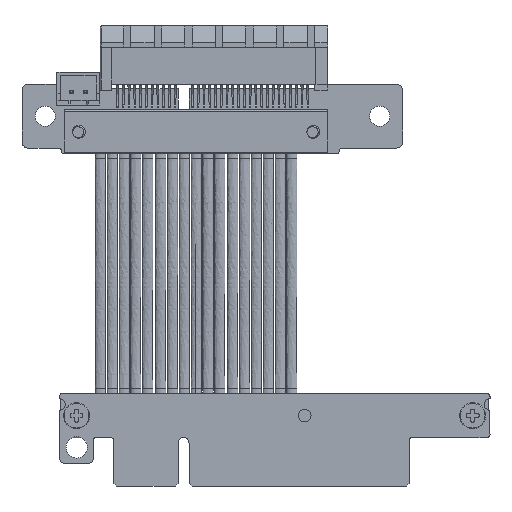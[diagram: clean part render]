
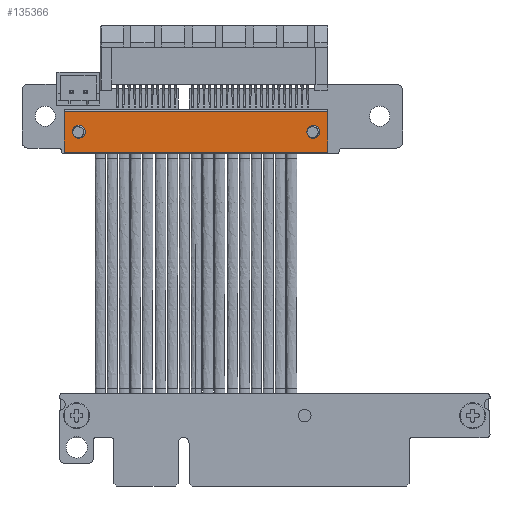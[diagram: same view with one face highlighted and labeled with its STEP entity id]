
A CAD part, top view. The second image highlights one B-rep face of the part: STEP entity #135366.
In plain terms, the highlighted planar face has unit normal (0, 0, 1) as drawn and (1, 0, 0) by its records, which use the part's own axes.
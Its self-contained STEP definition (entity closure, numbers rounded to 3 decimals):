
#135338 = VERTEX_POINT('',#135339);
#135339 = CARTESIAN_POINT('',(0.25,-0.25,0.));
#135346 = EDGE_CURVE('',#135347,#135338,#135349,.T.);
#135347 = VERTEX_POINT('',#135348);
#135348 = CARTESIAN_POINT('',(0.25,-0.25,-45.75));
#135349 = LINE('',#135350,#135351);
#135350 = CARTESIAN_POINT('',(0.25,-0.25,-45.75));
#135351 = VECTOR('',#135352,1.);
#135352 = DIRECTION('',(0.,0.,1.));
#135366 = ADVANCED_FACE('',(#135367,#135387,#135407),#135432,.T.);
#135367 = FACE_BOUND('',#135368,.T.);
#135368 = EDGE_LOOP('',(#135369,#135380));
#135369 = ORIENTED_EDGE('',*,*,#135370,.F.);
#135370 = EDGE_CURVE('',#135371,#135373,#135375,.T.);
#135371 = VERTEX_POINT('',#135372);
#135372 = CARTESIAN_POINT('',(0.25,-3.804,-44.3));
#135373 = VERTEX_POINT('',#135374);
#135374 = CARTESIAN_POINT('',(0.25,-3.804,-42.1));
#135375 = CIRCLE('',#135376,1.1);
#135376 = AXIS2_PLACEMENT_3D('',#135377,#135378,#135379);
#135377 = CARTESIAN_POINT('',(0.25,-3.804,-43.2));
#135378 = DIRECTION('',(1.,0.,0.));
#135379 = DIRECTION('',(0.,1.,0.));
#135380 = ORIENTED_EDGE('',*,*,#135381,.F.);
#135381 = EDGE_CURVE('',#135373,#135371,#135382,.T.);
#135382 = CIRCLE('',#135383,1.1);
#135383 = AXIS2_PLACEMENT_3D('',#135384,#135385,#135386);
#135384 = CARTESIAN_POINT('',(0.25,-3.8,-43.2));
#135385 = DIRECTION('',(1.,0.,0.));
#135386 = DIRECTION('',(0.,1.,0.));
#135387 = FACE_BOUND('',#135388,.T.);
#135388 = EDGE_LOOP('',(#135389,#135400));
#135389 = ORIENTED_EDGE('',*,*,#135390,.F.);
#135390 = EDGE_CURVE('',#135391,#135393,#135395,.T.);
#135391 = VERTEX_POINT('',#135392);
#135392 = CARTESIAN_POINT('',(0.25,-2.704,-2.55));
#135393 = VERTEX_POINT('',#135394);
#135394 = CARTESIAN_POINT('',(0.25,-3.804,-1.45));
#135395 = CIRCLE('',#135396,1.1);
#135396 = AXIS2_PLACEMENT_3D('',#135397,#135398,#135399);
#135397 = CARTESIAN_POINT('',(0.25,-3.804,-2.55));
#135398 = DIRECTION('',(1.,0.,0.));
#135399 = DIRECTION('',(0.,1.,0.));
#135400 = ORIENTED_EDGE('',*,*,#135401,.F.);
#135401 = EDGE_CURVE('',#135393,#135391,#135402,.T.);
#135402 = CIRCLE('',#135403,1.1);
#135403 = AXIS2_PLACEMENT_3D('',#135404,#135405,#135406);
#135404 = CARTESIAN_POINT('',(0.25,-3.804,-2.55));
#135405 = DIRECTION('',(1.,0.,0.));
#135406 = DIRECTION('',(0.,1.,0.));
#135407 = FACE_BOUND('',#135408,.T.);
#135408 = EDGE_LOOP('',(#135409,#135417,#135425,#135431));
#135409 = ORIENTED_EDGE('',*,*,#135410,.F.);
#135410 = EDGE_CURVE('',#135411,#135338,#135413,.T.);
#135411 = VERTEX_POINT('',#135412);
#135412 = CARTESIAN_POINT('',(0.25,-7.35,0.));
#135413 = LINE('',#135414,#135415);
#135414 = CARTESIAN_POINT('',(0.25,-0.25,0.));
#135415 = VECTOR('',#135416,1.);
#135416 = DIRECTION('',(0.,1.,-0.));
#135417 = ORIENTED_EDGE('',*,*,#135418,.F.);
#135418 = EDGE_CURVE('',#135419,#135411,#135421,.T.);
#135419 = VERTEX_POINT('',#135420);
#135420 = CARTESIAN_POINT('',(0.25,-7.35,-45.75));
#135421 = LINE('',#135422,#135423);
#135422 = CARTESIAN_POINT('',(0.25,-7.35,-45.75));
#135423 = VECTOR('',#135424,1.);
#135424 = DIRECTION('',(0.,0.,1.));
#135425 = ORIENTED_EDGE('',*,*,#135426,.T.);
#135426 = EDGE_CURVE('',#135419,#135347,#135427,.T.);
#135427 = LINE('',#135428,#135429);
#135428 = CARTESIAN_POINT('',(0.25,-0.25,-45.75));
#135429 = VECTOR('',#135430,1.);
#135430 = DIRECTION('',(0.,1.,-0.));
#135431 = ORIENTED_EDGE('',*,*,#135346,.T.);
#135432 = PLANE('',#135433);
#135433 = AXIS2_PLACEMENT_3D('',#135434,#135435,#135436);
#135434 = CARTESIAN_POINT('',(0.25,-0.25,-45.75));
#135435 = DIRECTION('',(1.,0.,0.));
#135436 = DIRECTION('',(0.,1.,0.));
